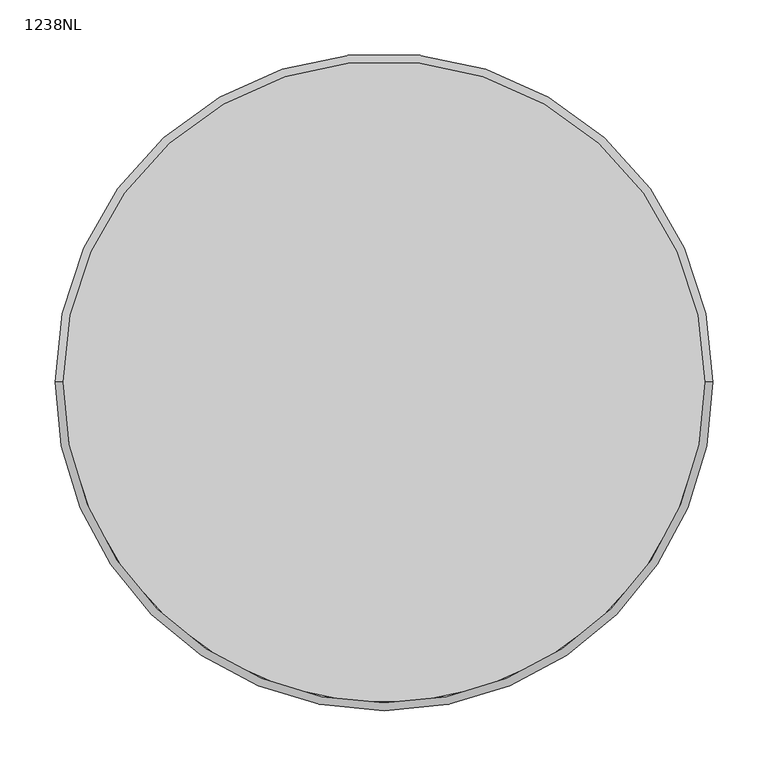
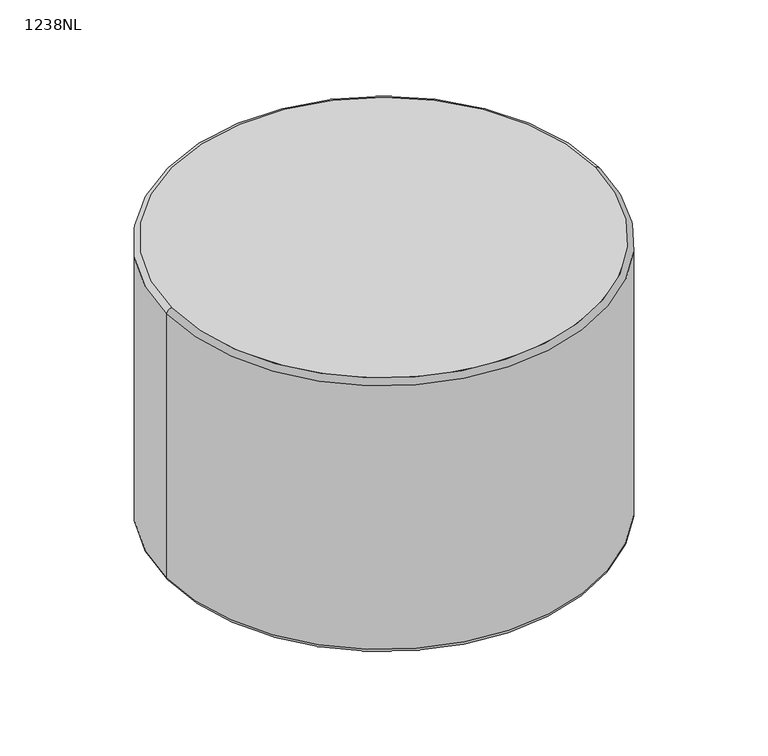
"""IFC4 building model written with IfcOpenShell, lengths in millimetres: furniture geometry, Laguna-Round_Ottomans-No_Legs-ERG : 1238NL."""

from ifc_helpers import new_model, si_unit, point, frame, origin, place, context, project, spatial, circle_curve, ellipse_curve, trimmed, source, transform, mapped, element, save
from ifc_brep_helpers import plane_surface, cylinder_surface, revolved_surface, advanced_brep


def furniture_1238nl_96f94360(model_context):
    return source(origin(), model_context, "Body", "AdvancedBrep", [
        advanced_brep(
        [(-4396.0421763, 1234.1558502, 10.16), (-4400.2852245, 1234.1558502, 10.16), (-4391.7991282, 1234.1558502, 10.16), (-4381.9638229, 1234.1558502, 0.0), (-4410.1205297, 1234.1558502, 0.0), (-4396.0421763, 1234.1558502, 0.0), (-4381.9638229, 1234.1558502, 3.9615026), (-4410.1205297, 1234.1558502, 3.9615026), (-4391.7991282, 1234.1558502, 3.9615026), (-4400.2852245, 1234.1558502, 3.9615026)],
        [
            (0, 1),
            (1, 2, circle_curve(frame((-4396.0421763, 1234.1558502, 10.16), z_axis=(0.0, 0.0, 1.0), x_axis=(-1.0, 0.0, 0.0)), 4.2430482)),
            (2, 0),
            (2, 1, circle_curve(frame((-4396.0421763, 1234.1558502, 10.16), z_axis=(0.0, 0.0, 1.0), x_axis=(-1.0, 0.0, 0.0)), 4.2430482)),
            (3, 4, circle_curve(frame((-4396.0421763, 1234.1558502, 0.0), z_axis=(0.0, 0.0, -1.0), x_axis=(-1.0, 0.0, 0.0)), 14.0783534)),
            (4, 5),
            (5, 3),
            (4, 3, circle_curve(frame((-4396.0421763, 1234.1558502, 0.0), z_axis=(0.0, 0.0, -1.0), x_axis=(-1.0, 0.0, 0.0)), 14.0783534)),
            (6, 7, circle_curve(frame((-4396.0421763, 1234.1558502, 3.9615026), z_axis=(0.0, 0.0, -1.0), x_axis=(-1.0, 0.0, 0.0)), 14.0783534)),
            (7, 4),
            (3, 6),
            (7, 6, circle_curve(frame((-4396.0421763, 1234.1558502, 3.9615026), z_axis=(0.0, 0.0, -1.0), x_axis=(-1.0, 0.0, 0.0)), 14.0783534)),
            (8, 9, circle_curve(frame((-4396.0421763, 1234.1558502, 3.9615026), z_axis=(0.0, 0.0, -1.0), x_axis=(-1.0, 0.0, 0.0)), 4.2430482)),
            (9, 7),
            (6, 8),
            (9, 8, circle_curve(frame((-4396.0421763, 1234.1558502, 3.9615026), z_axis=(0.0, 0.0, -1.0), x_axis=(-1.0, 0.0, 0.0)), 4.2430482)),
            (1, 9),
            (8, 2),
        ],
        [
            plane_surface(frame((-4396.0421763, 1234.1558502, 10.16), z_axis=(0.0, 0.0, 1.0), x_axis=(-1.0, 0.0, 0.0))),
            plane_surface(frame((-4396.0421763, 1234.1558502, 0.0), z_axis=(0.0, 0.0, -1.0), x_axis=(-1.0, 0.0, 0.0))),
            cylinder_surface(frame((-4396.0421763, 1234.1558502, 80.01), z_axis=(0.0, 0.0, 1.0), x_axis=(-1.0, 0.0, 0.0)), 14.0783534),
            plane_surface(frame((-4396.0421763, 1234.1558502, 3.9615026), z_axis=(0.0, 0.0, 1.0), x_axis=(-1.0, 0.0, 0.0))),
            cylinder_surface(frame((-4396.0421763, 1234.1558502, 80.01), z_axis=(0.0, 0.0, 1.0), x_axis=(-1.0, 0.0, 0.0)), 4.2430482),
        ],
        [
            (0, [[1, 2, 3]]),
            (0, [[-3, 4, -1]]),
            (1, [[5, 6, 7]]),
            (1, [[8, -7, -6]]),
            (2, [[9, 10, -5, 11]]),
            (2, [[12, -11, -8, -10]]),
            (3, [[13, 14, -9, 15]]),
            (3, [[16, -15, -12, -14]]),
            (4, [[-2, 17, -13, 18]]),
            (4, [[-4, -18, -16, -17]]),
        ],
    ),
        advanced_brep(
        [(-4933.6852245, 1234.1558502, 3.9615026), (-4925.1991282, 1234.1558502, 3.9615026), (-4925.1991282, 1234.1558502, 10.16), (-4933.6852245, 1234.1558502, 10.16), (-4943.5205297, 1234.1558502, 3.9615026), (-4915.3638229, 1234.1558502, 3.9615026), (-4943.5205297, 1234.1558502, 0.0), (-4915.3638229, 1234.1558502, 0.0), (-4929.4421763, 1234.1558502, 0.0), (-4929.4421763, 1234.1558502, 10.16)],
        [
            (0, 1, circle_curve(frame((-4929.4421763, 1234.1558502, 3.9615026), z_axis=(0.0, 0.0, 1.0), x_axis=(1.0, 0.0, 0.0)), 4.2430482)),
            (1, 2),
            (2, 3, circle_curve(frame((-4929.4421763, 1234.1558502, 10.16), z_axis=(0.0, 0.0, -1.0), x_axis=(1.0, 0.0, 0.0)), 4.2430482)),
            (3, 0),
            (1, 0, circle_curve(frame((-4929.4421763, 1234.1558502, 3.9615026), z_axis=(0.0, 0.0, 1.0), x_axis=(1.0, 0.0, 0.0)), 4.2430482)),
            (3, 2, circle_curve(frame((-4929.4421763, 1234.1558502, 10.16), z_axis=(0.0, 0.0, -1.0), x_axis=(1.0, 0.0, 0.0)), 4.2430482)),
            (4, 5, circle_curve(frame((-4929.4421763, 1234.1558502, 3.9615026), z_axis=(0.0, 0.0, 1.0), x_axis=(1.0, 0.0, 0.0)), 14.0783534)),
            (5, 1),
            (0, 4),
            (5, 4, circle_curve(frame((-4929.4421763, 1234.1558502, 3.9615026), z_axis=(0.0, 0.0, 1.0), x_axis=(1.0, 0.0, 0.0)), 14.0783534)),
            (6, 7, circle_curve(frame((-4929.4421763, 1234.1558502, 0.0), z_axis=(0.0, 0.0, 1.0), x_axis=(1.0, 0.0, 0.0)), 14.0783534)),
            (7, 5),
            (4, 6),
            (7, 6, circle_curve(frame((-4929.4421763, 1234.1558502, 0.0), z_axis=(0.0, 0.0, 1.0), x_axis=(1.0, 0.0, 0.0)), 14.0783534)),
            (8, 7),
            (6, 8),
            (2, 9),
            (9, 3),
        ],
        [
            cylinder_surface(frame((-4929.4421763, 1234.1558502, 29.21), z_axis=(0.0, 0.0, -1.0), x_axis=(1.0, 0.0, 0.0)), 4.2430482),
            plane_surface(frame((-4929.4421763, 1234.1558502, 3.9615026), z_axis=(0.0, 0.0, 1.0), x_axis=(1.0, 0.0, 0.0))),
            cylinder_surface(frame((-4929.4421763, 1234.1558502, 29.21), z_axis=(0.0, 0.0, -1.0), x_axis=(1.0, 0.0, 0.0)), 14.0783534),
            plane_surface(frame((-4929.4421763, 1234.1558502, 0.0), z_axis=(0.0, 0.0, -1.0), x_axis=(1.0, 0.0, 0.0))),
            plane_surface(frame((-4929.4421763, 1234.1558502, 10.16), z_axis=(0.0, 0.0, 1.0), x_axis=(1.0, 0.0, 0.0))),
        ],
        [
            (0, [[1, 2, 3, 4]]),
            (0, [[5, -4, 6, -2]]),
            (1, [[7, 8, -1, 9]]),
            (1, [[10, -9, -5, -8]]),
            (2, [[11, 12, -7, 13]]),
            (2, [[14, -13, -10, -12]]),
            (3, [[15, -11, 16]]),
            (3, [[-16, -14, -15]]),
            (4, [[-3, 17, 18]]),
            (4, [[-6, -18, -17]]),
        ],
    ),
        advanced_brep(
        [(-4662.7421763, 971.6988983, 3.9615026), (-4662.7421763, 963.212802, 3.9615026), (-4662.7421763, 963.212802, 10.16), (-4662.7421763, 971.6988983, 10.16), (-4662.7421763, 981.5342036, 3.9615026), (-4662.7421763, 953.3774967, 3.9615026), (-4662.7421763, 981.5342036, 0.0), (-4662.7421763, 953.3774967, 0.0), (-4662.7421763, 967.4558502, 0.0), (-4662.7421763, 967.4558502, 10.16)],
        [
            (0, 1, circle_curve(frame((-4662.7421763, 967.4558502, 3.9615026), z_axis=(0.0, 0.0, 1.0), x_axis=(0.0, -1.0, 0.0)), 4.2430482)),
            (1, 2),
            (2, 3, circle_curve(frame((-4662.7421763, 967.4558502, 10.16), z_axis=(0.0, 0.0, -1.0), x_axis=(0.0, -1.0, 0.0)), 4.2430482)),
            (3, 0),
            (1, 0, circle_curve(frame((-4662.7421763, 967.4558502, 3.9615026), z_axis=(0.0, 0.0, 1.0), x_axis=(0.0, -1.0, 0.0)), 4.2430482)),
            (3, 2, circle_curve(frame((-4662.7421763, 967.4558502, 10.16), z_axis=(0.0, 0.0, -1.0), x_axis=(0.0, -1.0, 0.0)), 4.2430482)),
            (4, 5, circle_curve(frame((-4662.7421763, 967.4558502, 3.9615026), z_axis=(0.0, 0.0, 1.0), x_axis=(0.0, -1.0, 0.0)), 14.0783534)),
            (5, 1),
            (0, 4),
            (5, 4, circle_curve(frame((-4662.7421763, 967.4558502, 3.9615026), z_axis=(0.0, 0.0, 1.0), x_axis=(0.0, -1.0, 0.0)), 14.0783534)),
            (6, 7, circle_curve(frame((-4662.7421763, 967.4558502, 0.0), z_axis=(0.0, 0.0, 1.0), x_axis=(0.0, -1.0, 0.0)), 14.0783534)),
            (7, 5),
            (4, 6),
            (7, 6, circle_curve(frame((-4662.7421763, 967.4558502, 0.0), z_axis=(0.0, 0.0, 1.0), x_axis=(0.0, -1.0, 0.0)), 14.0783534)),
            (8, 7),
            (6, 8),
            (2, 9),
            (9, 3),
        ],
        [
            cylinder_surface(frame((-4662.7421763, 967.4558502, 39.775957), z_axis=(0.0, 0.0, -1.0), x_axis=(0.0, -1.0, 0.0)), 4.2430482),
            plane_surface(frame((-4662.7421763, 967.4558502, 3.9615026), z_axis=(0.0, 0.0, 1.0), x_axis=(0.0, -1.0, 0.0))),
            cylinder_surface(frame((-4662.7421763, 967.4558502, 39.775957), z_axis=(0.0, 0.0, -1.0), x_axis=(0.0, -1.0, 0.0)), 14.0783534),
            plane_surface(frame((-4662.7421763, 967.4558502, 0.0), z_axis=(0.0, 0.0, -1.0), x_axis=(0.0, -1.0, 0.0))),
            plane_surface(frame((-4662.7421763, 967.4558502, 10.16), z_axis=(0.0, 0.0, 1.0), x_axis=(0.0, -1.0, 0.0))),
        ],
        [
            (0, [[1, 2, 3, 4]]),
            (0, [[5, -4, 6, -2]]),
            (1, [[7, 8, -1, 9]]),
            (1, [[10, -9, -5, -8]]),
            (2, [[11, 12, -7, 13]]),
            (2, [[14, -13, -10, -12]]),
            (3, [[15, -11, 16]]),
            (3, [[-16, -14, -15]]),
            (4, [[-3, 17, 18]]),
            (4, [[-6, -18, -17]]),
        ],
    ),
        advanced_brep(
        [(-4662.7421763, 1505.0988983, 3.9615026), (-4662.7421763, 1496.612802, 3.9615026), (-4662.7421763, 1496.612802, 10.16), (-4662.7421763, 1505.0988983, 10.16), (-4662.7421763, 1514.9342036, 3.9615026), (-4662.7421763, 1486.7774967, 3.9615026), (-4662.7421763, 1514.9342036, 0.0), (-4662.7421763, 1486.7774967, 0.0), (-4662.7421763, 1500.8558502, 0.0), (-4662.7421763, 1500.8558502, 10.16)],
        [
            (0, 1, circle_curve(frame((-4662.7421763, 1500.8558502, 3.9615026), z_axis=(0.0, 0.0, 1.0), x_axis=(0.0, -1.0, 0.0)), 4.2430482)),
            (1, 2),
            (2, 3, circle_curve(frame((-4662.7421763, 1500.8558502, 10.16), z_axis=(0.0, 0.0, -1.0), x_axis=(0.0, -1.0, 0.0)), 4.2430482)),
            (3, 0),
            (1, 0, circle_curve(frame((-4662.7421763, 1500.8558502, 3.9615026), z_axis=(0.0, 0.0, 1.0), x_axis=(0.0, -1.0, 0.0)), 4.2430482)),
            (3, 2, circle_curve(frame((-4662.7421763, 1500.8558502, 10.16), z_axis=(0.0, 0.0, -1.0), x_axis=(0.0, -1.0, 0.0)), 4.2430482)),
            (4, 5, circle_curve(frame((-4662.7421763, 1500.8558502, 3.9615026), z_axis=(0.0, 0.0, 1.0), x_axis=(0.0, -1.0, 0.0)), 14.0783534)),
            (5, 1),
            (0, 4),
            (5, 4, circle_curve(frame((-4662.7421763, 1500.8558502, 3.9615026), z_axis=(0.0, 0.0, 1.0), x_axis=(0.0, -1.0, 0.0)), 14.0783534)),
            (6, 7, circle_curve(frame((-4662.7421763, 1500.8558502, 0.0), z_axis=(0.0, 0.0, 1.0), x_axis=(0.0, -1.0, 0.0)), 14.0783534)),
            (7, 5),
            (4, 6),
            (7, 6, circle_curve(frame((-4662.7421763, 1500.8558502, 0.0), z_axis=(0.0, 0.0, 1.0), x_axis=(0.0, -1.0, 0.0)), 14.0783534)),
            (8, 7),
            (6, 8),
            (2, 9),
            (9, 3),
        ],
        [
            cylinder_surface(frame((-4662.7421763, 1500.8558502, 48.26), z_axis=(0.0, 0.0, -1.0), x_axis=(0.0, -1.0, 0.0)), 4.2430482),
            plane_surface(frame((-4662.7421763, 1500.8558502, 3.9615026), z_axis=(0.0, 0.0, 1.0), x_axis=(0.0, -1.0, 0.0))),
            cylinder_surface(frame((-4662.7421763, 1500.8558502, 48.26), z_axis=(0.0, 0.0, -1.0), x_axis=(0.0, -1.0, 0.0)), 14.0783534),
            plane_surface(frame((-4662.7421763, 1500.8558502, 0.0), z_axis=(0.0, 0.0, -1.0), x_axis=(0.0, -1.0, 0.0))),
            plane_surface(frame((-4662.7421763, 1500.8558502, 10.16), z_axis=(0.0, 0.0, 1.0), x_axis=(0.0, -1.0, 0.0))),
        ],
        [
            (0, [[1, 2, 3, 4]]),
            (0, [[5, -4, 6, -2]]),
            (1, [[7, 8, -1, 9]]),
            (1, [[10, -9, -5, -8]]),
            (2, [[11, 12, -7, 13]]),
            (2, [[14, -13, -10, -12]]),
            (3, [[15, -11, 16]]),
            (3, [[-16, -14, -15]]),
            (4, [[-3, 17, 18]]),
            (4, [[-6, -18, -17]]),
        ],
    ),
        advanced_brep(
        [(-4364.281116, 1234.1558502, 399.8831003), (-4961.2032366, 1234.1558502, 399.8831003), (-4961.2032366, 1234.1558502, 16.6768997), (-4364.281116, 1234.1558502, 16.6768997), (-4371.2439761, 1234.1558502, 406.4), (-4954.2403765, 1234.1558502, 406.4), (-4954.2403765, 1234.1558502, 10.16), (-4371.2439761, 1234.1558502, 10.16)],
        [
            (0, 1, circle_curve(frame((-4662.7421763, 1234.1558502, 399.8831003), z_axis=(0.0, 0.0, -1.0), x_axis=(-1.0, 0.0, 0.0)), 298.4610603)),
            (1, 2, circle_curve(frame((-2068.6401763, 1234.1558502, 208.28), z_axis=(0.0, -1.0, 0.0), x_axis=(1.0, 0.0, 0.0)), 2898.902)),
            (2, 3, circle_curve(frame((-4662.7421763, 1234.1558502, 16.6768997), z_axis=(0.0, 0.0, 1.0), x_axis=(-1.0, 0.0, 0.0)), 298.4610603)),
            (3, 0, circle_curve(frame((-7256.8441763, 1234.1558502, 208.28), z_axis=(0.0, -1.0, 0.0), x_axis=(-1.0, 0.0, 0.0)), 2898.902)),
            (0, 4, circle_curve(frame((-4371.2439761, 1234.1558502, 399.4218811), z_axis=(0.0, -1.0, 0.0), x_axis=(-1.0, 0.0, 0.0)), 6.9781189)),
            (4, 5, circle_curve(frame((-4662.7421763, 1234.1558502, 406.4), z_axis=(0.0, 0.0, -1.0), x_axis=(-1.0, 0.0, 0.0)), 291.4982002)),
            (5, 1, circle_curve(frame((-4954.2403765, 1234.1558502, 399.4218811), z_axis=(0.0, -1.0, 0.0), x_axis=(1.0, 0.0, 0.0)), 6.9781189)),
            (2, 6, circle_curve(frame((-4954.2403765, 1234.1558502, 17.1381189), z_axis=(0.0, -1.0, 0.0), x_axis=(1.0, 0.0, 0.0)), 6.9781189)),
            (6, 7, circle_curve(frame((-4662.7421763, 1234.1558502, 10.16), z_axis=(0.0, 0.0, 1.0), x_axis=(-1.0, 0.0, 0.0)), 291.4982002)),
            (7, 3, circle_curve(frame((-4371.2439761, 1234.1558502, 17.1381189), z_axis=(0.0, -1.0, 0.0), x_axis=(-1.0, 0.0, 0.0)), 6.9781189)),
            (1, 0, circle_curve(frame((-4662.7421763, 1234.1558502, 399.8831003), z_axis=(0.0, 0.0, -1.0), x_axis=(1.0, 0.0, 0.0)), 298.4610603)),
            (3, 2, circle_curve(frame((-4662.7421763, 1234.1558502, 16.6768997), z_axis=(0.0, 0.0, 1.0), x_axis=(1.0, 0.0, 0.0)), 298.4610603)),
            (5, 4, circle_curve(frame((-4662.7421763, 1234.1558502, 406.4), z_axis=(0.0, 0.0, -1.0), x_axis=(1.0, 0.0, 0.0)), 291.4982002)),
            (7, 6, circle_curve(frame((-4662.7421763, 1234.1558502, 10.16), z_axis=(0.0, 0.0, 1.0), x_axis=(1.0, 0.0, 0.0)), 291.4982002)),
        ],
        [
            revolved_surface(trimmed(ellipse_curve(frame((-2068.6401763, 1234.1558502, 208.28), z_axis=(0.0, 1.0, 0.0), x_axis=(1.0, 0.0, 0.0)), 2898.902, 2898.902), [point((-4961.2032366, 1234.1558502, 16.6768997))], [point((-4961.2032366, 1234.1558502, 399.8831003))], True, "CARTESIAN"), (-4662.7421763, 1234.1558502, 0.0), (0.0, 0.0, 1.0)),
            revolved_surface(trimmed(ellipse_curve(frame((-4954.2403765, 1234.1558502, 399.4218811), z_axis=(0.0, 1.0, 0.0), x_axis=(1.0, 0.0, 0.0)), 6.9781189, 6.9781189), [point((-4961.2032366, 1234.1558502, 399.8831003))], [point((-4954.2403765, 1234.1558502, 406.4))], True, "CARTESIAN"), (-4662.7421763, 1234.1558502, 0.0), (0.0, 0.0, 1.0)),
            revolved_surface(trimmed(ellipse_curve(frame((-4954.2403765, 1234.1558502, 17.1381189), z_axis=(0.0, 1.0, 0.0), x_axis=(1.0, 0.0, 0.0)), 6.9781189, 6.9781189), [point((-4954.2403765, 1234.1558502, 10.16))], [point((-4961.2032366, 1234.1558502, 16.6768997))], True, "CARTESIAN"), (-4662.7421763, 1234.1558502, 0.0), (0.0, 0.0, 1.0)),
            revolved_surface(trimmed(ellipse_curve(frame((-7256.8441763, 1234.1558502, 208.28), z_axis=(0.0, -1.0, 0.0), x_axis=(-1.0, 0.0, 0.0)), 2898.902, 2898.902), [point((-4364.281116, 1234.1558502, 16.6768997))], [point((-4364.281116, 1234.1558502, 399.8831003))], True, "CARTESIAN"), (-4662.7421763, 1234.1558502, 0.0), (0.0, 0.0, 1.0)),
            revolved_surface(trimmed(ellipse_curve(frame((-4371.2439761, 1234.1558502, 399.4218811), z_axis=(0.0, -1.0, 0.0), x_axis=(-1.0, 0.0, 0.0)), 6.9781189, 6.9781189), [point((-4364.281116, 1234.1558502, 399.8831003))], [point((-4371.2439761, 1234.1558502, 406.4))], True, "CARTESIAN"), (-4662.7421763, 1234.1558502, 0.0), (0.0, 0.0, 1.0)),
            revolved_surface(trimmed(ellipse_curve(frame((-4371.2439761, 1234.1558502, 17.1381189), z_axis=(0.0, -1.0, 0.0), x_axis=(-1.0, 0.0, 0.0)), 6.9781189, 6.9781189), [point((-4371.2439761, 1234.1558502, 10.16))], [point((-4364.281116, 1234.1558502, 16.6768997))], True, "CARTESIAN"), (-4662.7421763, 1234.1558502, 0.0), (0.0, 0.0, 1.0)),
            plane_surface(frame((-4371.2439761, 1234.1558502, 406.4), z_axis=(0.0, 0.0, 1.0), x_axis=(0.0, 1.0, 0.0))),
            plane_surface(frame((-4371.2439761, 1234.1558502, 10.16), z_axis=(0.0, 0.0, -1.0), x_axis=(0.0, -1.0, 0.0))),
        ],
        [
            (0, [[1, 2, 3, 4]]),
            (1, [[-1, 5, 6, 7]]),
            (2, [[-3, 8, 9, 10]]),
            (3, [[-2, 11, -4, 12]]),
            (4, [[-7, 13, -5, -11]]),
            (5, [[-8, -12, -10, 14]]),
            (6, [[-6, -13]]),
            (7, [[-9, -14]]),
        ],
    ),
    ])


if __name__ == "__main__":
    model = new_model("IFC4")
    model_context = context("Model", 3, world=origin())
    ifc_project = project(units=[si_unit("LENGTHUNIT", "METRE", prefix="MILLI")], contexts=[model_context])
    site = spatial("IfcSite", under=ifc_project)
    building = spatial("IfcBuilding", under=site)
    placement = place(None, origin())
    furniture_1238nl_shape = furniture_1238nl_96f94360(model_context)
    element("IfcFurniture", 1, ObjectType="Laguna-Round_Ottomans-No_Legs-ERG : 1238NL", at=placement, inside=building, context=model_context, shape_type="MappedRepresentation", body=[
        mapped(furniture_1238nl_shape, transform((0.0, 0.0, 0.0), x_axis=(1.0, 0.0, 0.0), y_axis=(0.0, 1.0, 0.0), z_axis=(0.0, 0.0, 1.0))),
    ])
    save(model, "model.ifc")
